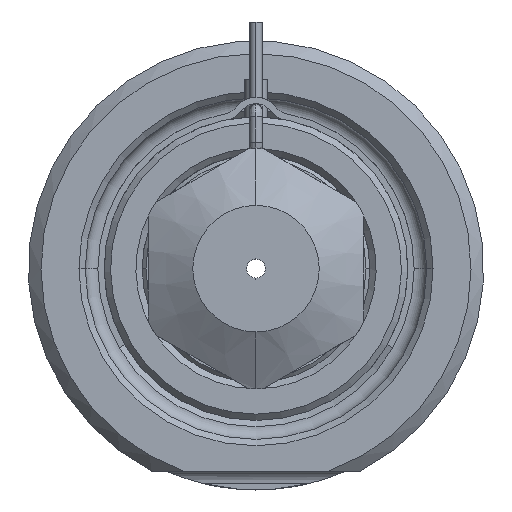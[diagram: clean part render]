
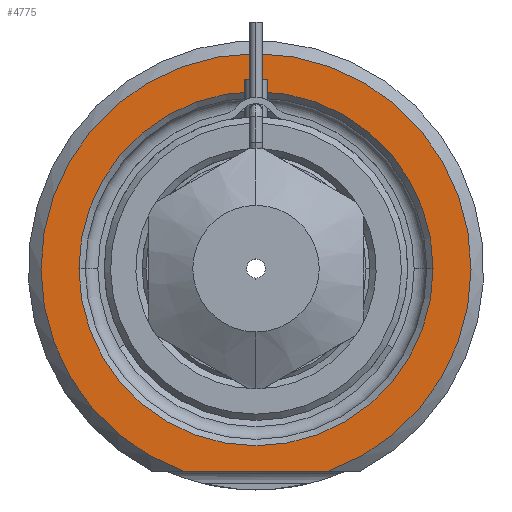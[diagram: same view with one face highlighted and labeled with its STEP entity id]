
A CAD part, front view. The second image highlights one B-rep face of the part: STEP entity #4775.
In plain terms, the highlighted planar face has unit normal (0, -1, 0).
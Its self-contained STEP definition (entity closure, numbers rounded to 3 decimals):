
#1434=DIRECTION('',(1.,0.,0.));
#1435=VECTOR('',#1434,11.489);
#1436=CARTESIAN_POINT('',(-5.745,0.,-16.));
#1437=LINE('',#1436,#1435);
#1438=CARTESIAN_POINT('',(0.,0.,0.));
#1439=DIRECTION('',(0.,1.,0.));
#1440=DIRECTION('',(-1.,0.,0.));
#1441=AXIS2_PLACEMENT_3D('',#1438,#1439,#1440);
#1443=CARTESIAN_POINT('',(0.,0.,0.));
#1444=DIRECTION('',(0.,1.,0.));
#1445=DIRECTION('',(1.,0.,0.));
#1446=AXIS2_PLACEMENT_3D('',#1443,#1444,#1445);
#1550=CARTESIAN_POINT('',(0.,0.,0.));
#1551=DIRECTION('',(0.,-1.,0.));
#1552=DIRECTION('',(0.338,0.,-0.941));
#1553=AXIS2_PLACEMENT_3D('',#1550,#1551,#1552);
#2512=CARTESIAN_POINT('',(-14.,0.,0.));
#2513=CARTESIAN_POINT('',(14.,0.,0.));
#2514=VERTEX_POINT('',#2512);
#2515=VERTEX_POINT('',#2513);
#2552=CARTESIAN_POINT('',(-5.745,0.,-16.));
#2553=CARTESIAN_POINT('',(5.745,0.,-16.));
#2554=VERTEX_POINT('',#2552);
#2555=VERTEX_POINT('',#2553);
#4759=CARTESIAN_POINT('',(0.,0.,0.));
#4760=DIRECTION('',(0.,-1.,0.));
#4761=DIRECTION('',(1.,0.,0.));
#4762=AXIS2_PLACEMENT_3D('',#4759,#4760,#4761);
#4763=PLANE('',#4762);
#4765=ORIENTED_EDGE('',*,*,#4764,.F.);
#4767=ORIENTED_EDGE('',*,*,#4766,.F.);
#4768=EDGE_LOOP('',(#4765,#4767));
#4769=FACE_OUTER_BOUND('',#4768,.F.);
#4771=ORIENTED_EDGE('',*,*,#4770,.F.);
#4772=ORIENTED_EDGE('',*,*,#4749,.F.);
#4773=EDGE_LOOP('',(#4771,#4772));
#4774=FACE_BOUND('',#4773,.F.);
#4775=ADVANCED_FACE('',(#4769,#4774),#4763,.T.);
#1442=CIRCLE('',#1441,14.);
#1447=CIRCLE('',#1446,14.);
#1554=CIRCLE('',#1553,17.);
#4749=EDGE_CURVE('',#2515,#2514,#1447,.T.);
#4764=EDGE_CURVE('',#2554,#2555,#1437,.T.);
#4766=EDGE_CURVE('',#2555,#2554,#1554,.T.);
#4770=EDGE_CURVE('',#2514,#2515,#1442,.T.);
